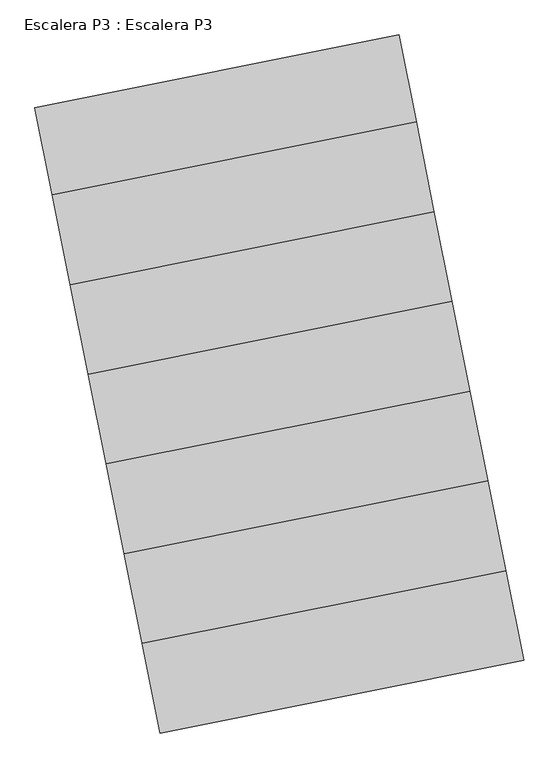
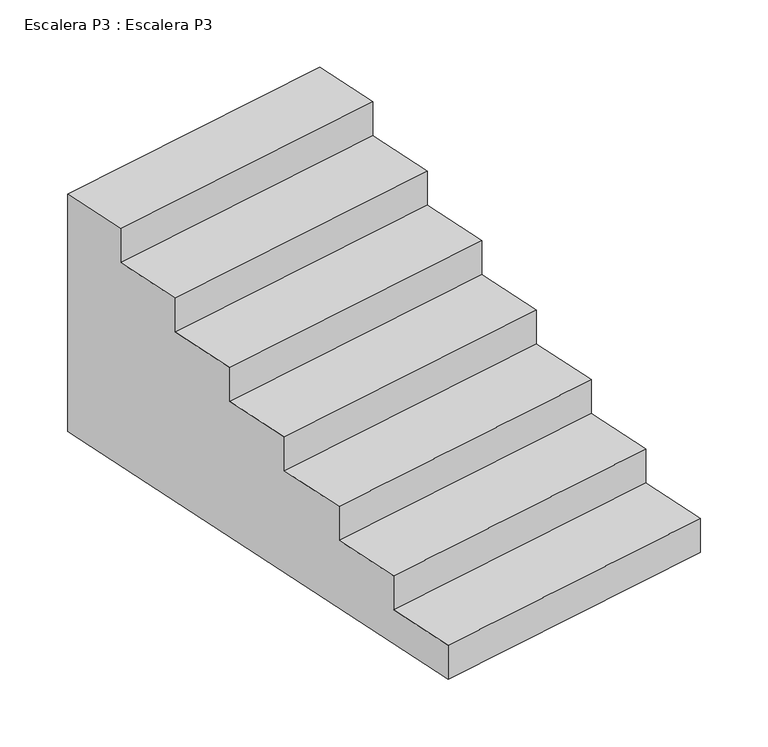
"""IFC4 building model written with IfcOpenShell, lengths in millimetres: stair geometry, Escalera P3 : Escalera P3."""

from ifc_helpers import new_model, si_unit, frame, origin, place, context, project, spatial, polyline, outline, extrude, source, transform, mapped, element, save


def escalera_p3_escalera_p3_fb3b3af3(model_context):
    return source(origin(), model_context, "Body", "SweptSolid", [
        extrude(outline(polyline([(-10.0, -9.0), (141.0, -9.0), (141.0, -309.0), (291.0, -309.0), (291.0, -609.0), (441.0, -609.0), (441.0, -909.0000001), (591.0, -909.0000001), (591.0, -1209.0), (741.0, -1209.0), (741.0, -1509.0), (891.0, -1509.0), (891.0, -1809.0), (1041.0, -1809.0), (1041.0, -2100.0), (-10.0, -2100.0), (-10.0, -9.0)])), frame((31302.1732717, -40581.887483, -1200.4), z_axis=(0.9805675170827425, 0.19618191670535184, 0.0), x_axis=(0.0, 0.0, 1.0)), (0.0, 0.0, 1.0), 1218.0000256),
    ])


if __name__ == "__main__":
    model = new_model("IFC4")
    model_context = context("Model", 3, world=origin())
    ifc_project = project(units=[si_unit("LENGTHUNIT", "METRE", prefix="MILLI")], contexts=[model_context])
    site = spatial("IfcSite", under=ifc_project)
    building = spatial("IfcBuilding", under=site)
    placement = place(None, origin())
    escalera_p3_escalera_p3_shape = escalera_p3_escalera_p3_fb3b3af3(model_context)
    element("IfcStair", 1, ObjectType="Escalera P3 : Escalera P3", at=placement, inside=building, context=model_context, shape_type="MappedRepresentation", body=[
        mapped(escalera_p3_escalera_p3_shape, transform((0.0, 0.0, 0.0), x_axis=(1.0, 0.0, 0.0), y_axis=(0.0, 1.0, 0.0), z_axis=(0.0, 0.0, 1.0))),
    ])
    save(model, "model.ifc")
